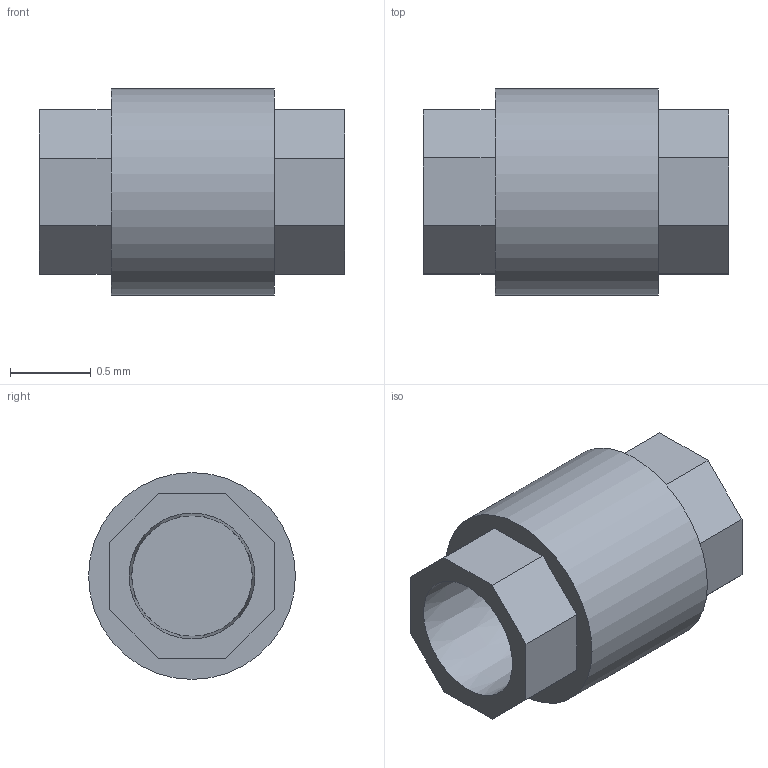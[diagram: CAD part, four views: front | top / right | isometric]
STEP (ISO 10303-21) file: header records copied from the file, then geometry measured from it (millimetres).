
FILE_DESCRIPTION(('Open CASCADE Model'),'2;1');
FILE_NAME('Open CASCADE Shape Model','2021-09-28T16:11:40',('Author'),( 'Open CASCADE'),'Open CASCADE STEP processor 7.3','Open CASCADE 7.3' ,'Unknown');
FILE_SCHEMA(('AUTOMOTIVE_DESIGN { 1 0 10303 214 1 1 1 1 }'));
Length unit declared in the file: millimetre
Products named in the file (1): Open CASCADE STEP translator 7.3 1
Bounding box: 1.89 x 1.28 x 1.28 mm (x, y, z)
Volume: 1.6 mm3; surface area: 12.1 mm2
Topology: 1 solids, 1 shells, 25 faces, 57 edges, 38 vertices
Faces by surface type: plane 22, cone 2, cylinder 1
Full cylindrical faces by diameter (mm): 1.28 x1
Entity records: 1457 total; most frequent: CARTESIAN_POINT 262, DIRECTION 222, LINE 156, VECTOR 156, ORIENTED_EDGE 114, PCURVE 114, DEFINITIONAL_REPRESENTATION 114, EDGE_CURVE 57
